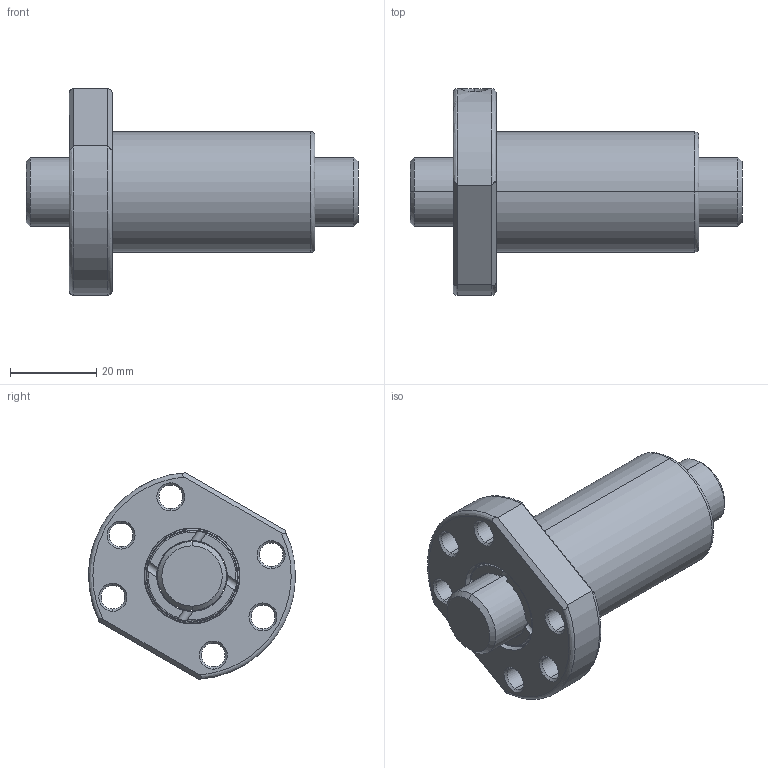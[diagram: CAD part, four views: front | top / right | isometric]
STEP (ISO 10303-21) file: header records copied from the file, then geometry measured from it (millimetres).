
FILE_DESCRIPTION (( 'STEP AP203' ), '1' );
FILE_NAME ('SFUR01610T3D-C.STEP', '2020-06-16T07:24:28', ( '' ), ( '' ), 'SwSTEP 2.0', 'SolidWorks 2013', '' );
FILE_SCHEMA (( 'CONFIG_CONTROL_DESIGN' ));
Length unit declared in the file: millimetre
Products named in the file (1): SFUR01610T3D-C
Bounding box: 77 x 47.99 x 47.91 mm (x, y, z)
Volume: 45096.9 mm3; surface area: 17885.1 mm2
Topology: 2 solids, 2 shells, 120 faces, 314 edges, 202 vertices
Faces by surface type: cylinder 54, plane 26, torus 18, cone 16, bspline 6
Entity records: 5390 total; most frequent: CARTESIAN_POINT 2402, ORIENTED_EDGE 628, DIRECTION 594, EDGE_CURVE 314, AXIS2_PLACEMENT_3D 255, VERTEX_POINT 202, EDGE_LOOP 142, CIRCLE 140
